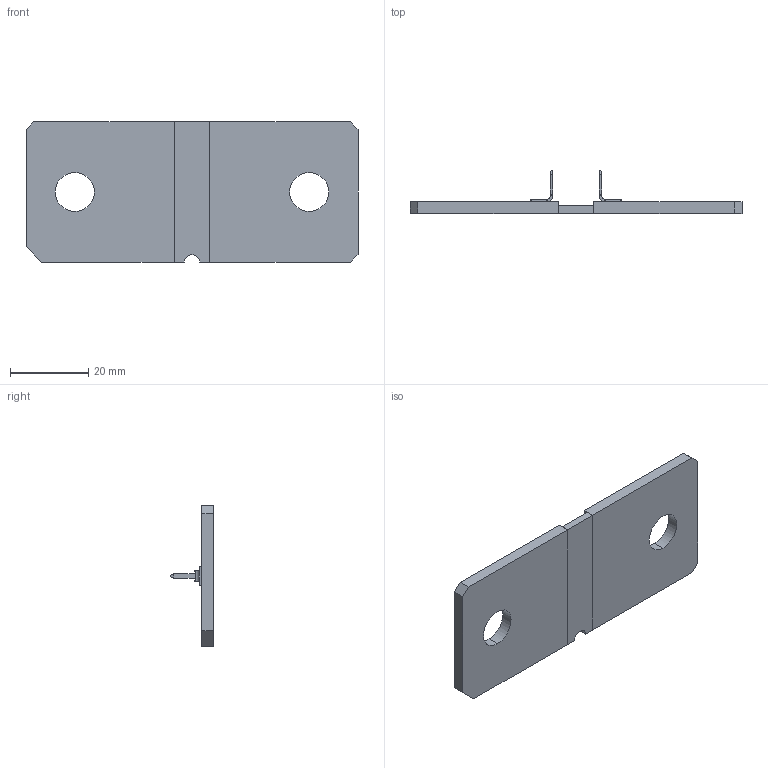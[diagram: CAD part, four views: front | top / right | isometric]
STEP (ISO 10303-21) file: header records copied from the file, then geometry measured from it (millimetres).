
FILE_DESCRIPTION (( 'STEP AP214' ), '1' );
FILE_NAME ('WSBS8536-20 50 microohm.STEP', '2021-03-09T15:41:11', ( '' ), ( '' ), 'SwSTEP 2.0', 'SolidWorks 2019', '' );
FILE_SCHEMA (( 'AUTOMOTIVE_DESIGN' ));
Length unit declared in the file: inch
Products named in the file (5): Left Terminal WSBS 8536 50 microohm; WSBS8536-20 50 microohm; Element WSBS 8536 50 microohm; SHUNT TERMINAL - VISHAY; Right Terminal WSBS 8536 50 microohm
Assembly tree (5 placements, depth 2):
  WSBS8536-20 50 microohm
    Element WSBS 8536 50 microohm
    Left Terminal WSBS 8536 50 microohm
    Right Terminal WSBS 8536 50 microohm
    SHUNT TERMINAL - VISHAY  x2
Bounding box: 84.99 x 10.99 x 35.99 mm (x, y, z)
Volume: 8351.1 mm3; surface area: 7181.2 mm2
Topology: 5 solids, 5 shells, 101 faces, 257 edges, 166 vertices
Faces by surface type: plane 67, cylinder 26, bspline 8
Entity records: 2261 total; most frequent: CARTESIAN_POINT 482, ORIENTED_EDGE 326, DIRECTION 317, EDGE_CURVE 163, LINE 115, VECTOR 115, VERTEX_POINT 106, AXIS2_PLACEMENT_3D 101
